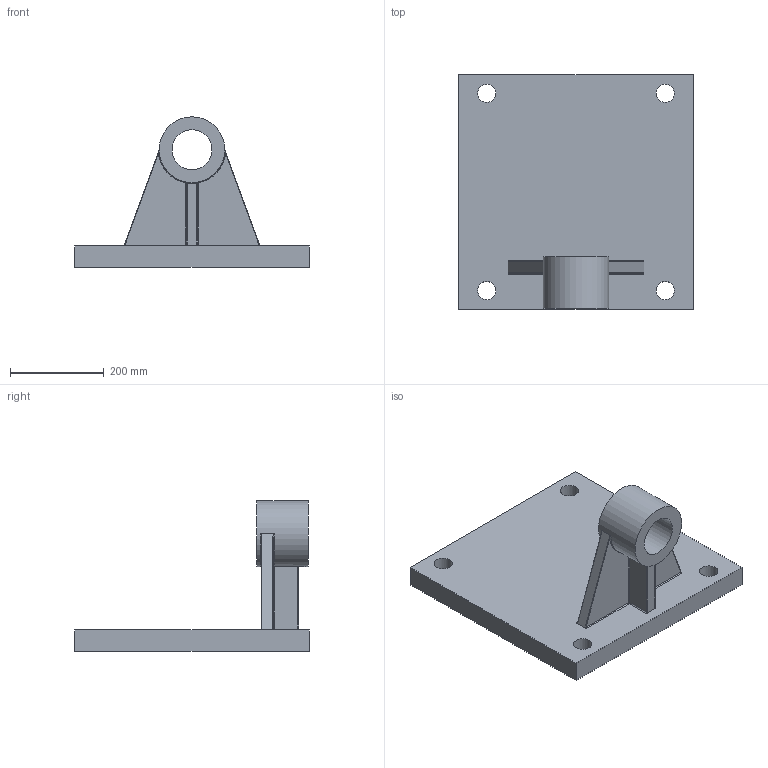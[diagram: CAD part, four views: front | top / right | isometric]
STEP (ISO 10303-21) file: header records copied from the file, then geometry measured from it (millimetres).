
FILE_DESCRIPTION((''),'2;1');
FILE_NAME('D:\PAWEŁ\ZLECENIA\DualSystem\001 Modele\DKAB150_\DK_150_STEP\AT_150.stp','2011-12-20T07:48:03',('Pawe'),(''),'Autodesk Inventor 2009','Autodesk Inventor 2009','');
FILE_SCHEMA(('AUTOMOTIVE_DESIGN { 1 0 10303 214 1 1 1 1 }'));
Length unit declared in the file: millimetre
Products named in the file (1): AT_150
Bounding box: 500 x 500 x 320 mm (x, y, z)
Volume: 13195140.4 mm3; surface area: 780641.4 mm2
Topology: 1 solids, 1 shells, 59 faces, 142 edges, 82 vertices
Faces by surface type: cylinder 21, bspline 20, plane 16, torus 2
Full cylindrical faces by diameter (mm): 39 x4, 85 x1, 140 x1
Entity records: 3662 total; most frequent: CARTESIAN_POINT 2374, ORIENTED_EDGE 262, DIRECTION 243, EDGE_CURVE 131, AXIS2_PLACEMENT_3D 98, VERTEX_POINT 82, EDGE_LOOP 77, FACE_OUTER_BOUND 59
